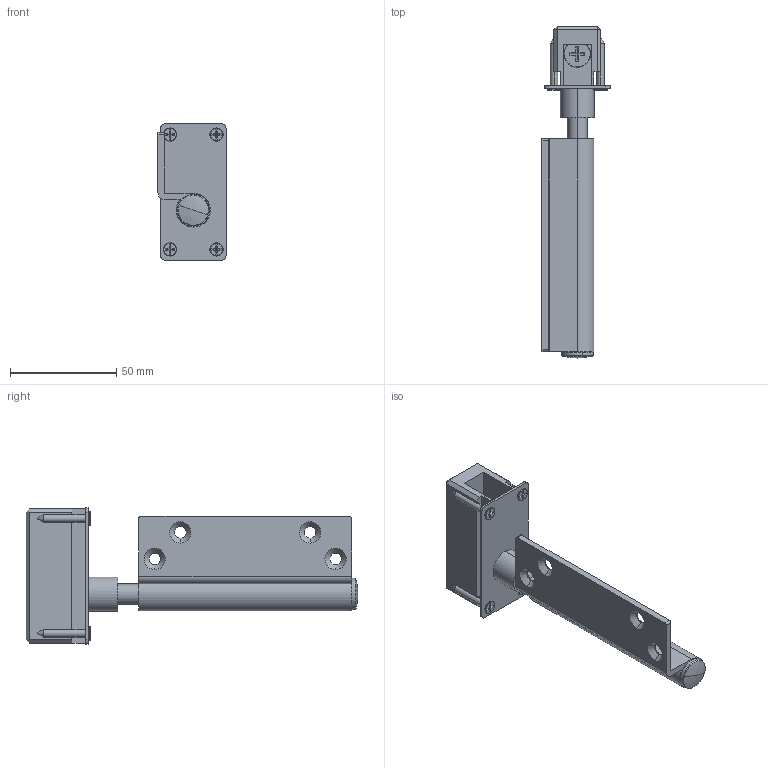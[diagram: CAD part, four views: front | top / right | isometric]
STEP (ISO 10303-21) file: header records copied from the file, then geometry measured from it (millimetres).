
FILE_DESCRIPTION (( 'STEP AP214' ), '1' );
FILE_NAME ('F3 Top Pivot - Right, Open 05Jul2024.STEP', '2024-07-05T01:06:35', ( '' ), ( '' ), 'SwSTEP 2.0', 'SolidWorks 2023', '' );
FILE_SCHEMA (( 'AUTOMOTIVE_DESIGN' ));
Length unit declared in the file: millimetre
Products named in the file (4): Offset Flap^F3 Top Pivot; Hinge Cap^F3 Top Pivot; Top pivot body^F3 Top Pivot; F3 Top Pivot - Right, Open  05Jul2024
Assembly tree (3 placements, depth 2):
  F3 Top Pivot - Right, Open  05Jul2024
    Top pivot body^F3 Top Pivot
    Offset Flap^F3 Top Pivot
    Hinge Cap^F3 Top Pivot
Bounding box: 32 x 156 x 64 mm (x, y, z)
Volume: 68309.5 mm3; surface area: 30819.5 mm2
Topology: 3 solids, 3 shells, 183 faces, 450 edges, 281 vertices
Faces by surface type: plane 109, cylinder 34, cone 30, torus 8, sphere 2
Entity records: 5610 total; most frequent: CARTESIAN_POINT 1048, DIRECTION 953, ORIENTED_EDGE 900, EDGE_CURVE 450, AXIS2_PLACEMENT_3D 322, LINE 309, VECTOR 309, VERTEX_POINT 281
